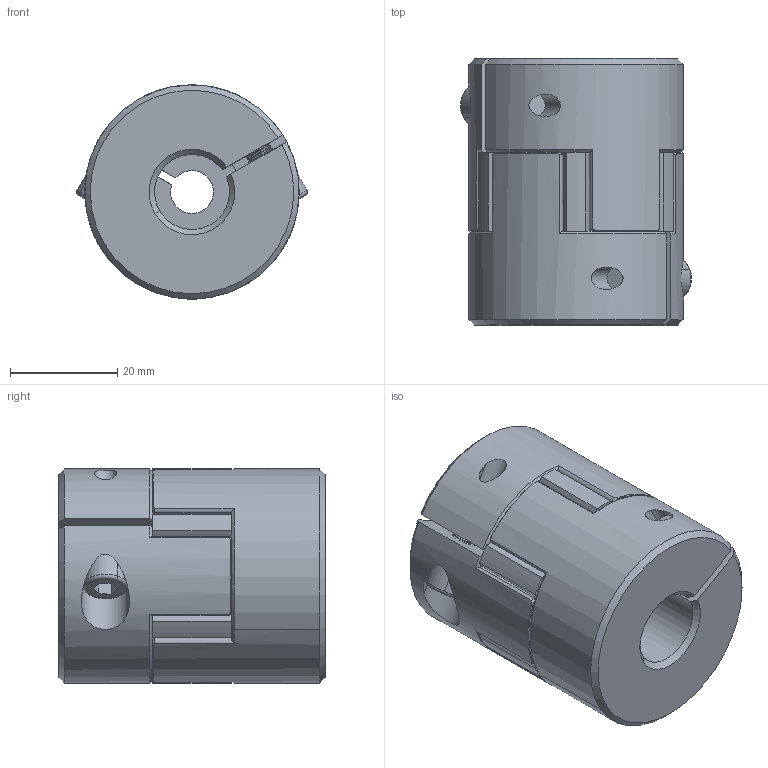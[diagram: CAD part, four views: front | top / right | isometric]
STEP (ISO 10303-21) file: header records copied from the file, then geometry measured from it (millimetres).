
FILE_DESCRIPTION (( 'STEP AP203' ), '1' );
FILE_NAME ('LF-B-D40L50-8-14.STEP', '2021-10-25T02:35:52', ( '' ), ( '' ), 'SwSTEP 2.0', 'SolidWorks 2018', '' );
FILE_SCHEMA (( 'CONFIG_CONTROL_DESIGN' ));
Length unit declared in the file: millimetre
Products named in the file (1): LF-B-D40L50-8-14
Bounding box: 43.11 x 49.7 x 40 mm (x, y, z)
Volume: 53289 mm3; surface area: 14637.2 mm2
Topology: 1 solids, 7 shells, 471 faces, 1117 edges, 662 vertices
Faces by surface type: cone 170, cylinder 169, plane 128, torus 4
Entity records: 13972 total; most frequent: CARTESIAN_POINT 2895, DIRECTION 2509, ORIENTED_EDGE 2226, EDGE_CURVE 1113, AXIS2_PLACEMENT_3D 1040, VERTEX_POINT 662, CIRCLE 568, EDGE_LOOP 487
